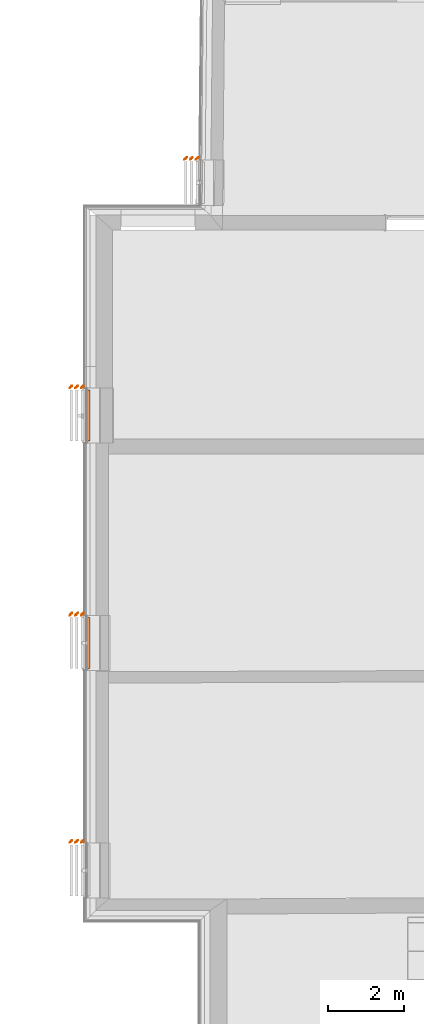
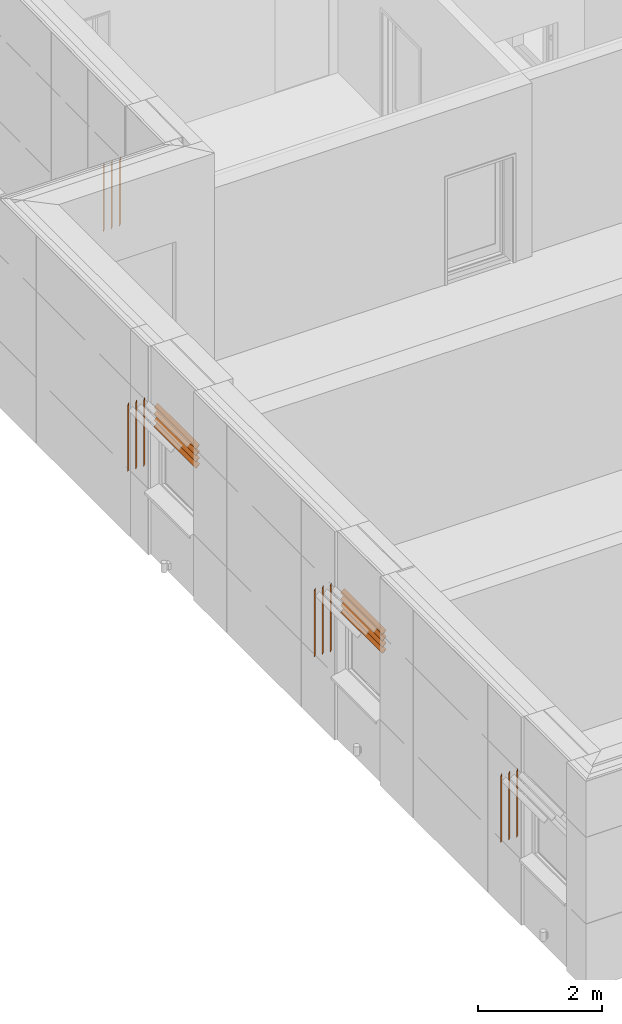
# One storey, part 354 of 418: 6 proxies.
"""IFC2X3 building model written with IfcOpenShell, lengths in millimetres."""

import ifcopenshell
import ifcopenshell.guid

model = None  # the IFC model being written
_history = None  # IfcOwnerHistory: only IFC2X3 demands one
_inside = {}  # id of a spatial element -> (the spatial element, [elements in it])
_under = {}  # id of a project, library or spatial element -> (it, [spatial elements below it])
_declared = {}  # id of a project -> (the project, [libraries it declares])
_typed = {}  # id of a type object -> (the type object, [elements of that type])
_made_of = {}  # id of a material, layer set ... -> (it, [elements and type objects made of it])


def new_model(schema):
    """Start an empty IFC model of exactly this schema.

    Asked for "IFC4X3", IfcOpenShell would pick the latest addendum, in which some entities
    have other attributes; the version numbers below select the first issue.
    IFC2X3 requires an IfcOwnerHistory on every rooted entity: one is made here for all.
    """
    global model, _history
    if schema == "IFC4X3":
        model = ifcopenshell.file(schema_version=(4, 3, 0, 0))
    else:
        model = ifcopenshell.file(schema=schema)
    _inside.clear()
    _under.clear()
    _declared.clear()
    _typed.clear()
    _made_of.clear()
    _history = None
    if model.schema == "IFC2X3":
        org = make("IfcOrganization", Name="unknown")
        user = make(
            "IfcPersonAndOrganization",
            ThePerson=make("IfcPerson", FamilyName="unknown"),
            TheOrganization=org,
        )
        app = make(
            "IfcApplication",
            ApplicationDeveloper=org,
            Version="unknown",
            ApplicationFullName="unknown",
            ApplicationIdentifier="unknown",
        )
        _history = make(
            "IfcOwnerHistory",
            OwningUser=user,
            OwningApplication=app,
            ChangeAction="ADDED",
            CreationDate=0,
        )
    return model


def make(cls, **values):
    """One entity of the class cls with the attributes given. An attribute that is None is left unset."""
    return model.create_entity(
        cls, **{name: value for name, value in values.items() if value is not None}
    )


def entity(cls, *values):
    """Any entity or typed value of the class cls, its attributes in the order of the schema. None: left unset."""
    e = model.create_entity(cls)
    for i, value in enumerate(values):
        if value is not None:
            e[i] = value
    return e


def rooted(cls, **values):
    """An entity with a GlobalId (a new one), such as an element, a storey or a relation."""
    return make(cls, GlobalId=ifcopenshell.guid.new(), OwnerHistory=_history, **values)


def si_unit(unit_type, name, prefix=None):
    """IfcSIUnit, for example si_unit("LENGTHUNIT", "METRE", prefix="MILLI")."""
    return make("IfcSIUnit", UnitType=unit_type, Prefix=prefix, Name=name)


def converted_unit(unit_type, name, factor, base, dimensions=None, offset=None):
    """IfcConversionBasedUnit, such as the inch: factor (a typed value) times the base unit."""
    return make(
        "IfcConversionBasedUnit"
        if offset is None
        else "IfcConversionBasedUnitWithOffset",
        ConversionOffset=offset,
        Dimensions=None
        if dimensions is None
        else entity("IfcDimensionalExponents", *dimensions),
        UnitType=unit_type,
        Name=name,
        ConversionFactor=make(
            "IfcMeasureWithUnit", ValueComponent=factor, UnitComponent=base
        ),
    )


def derived_unit(unit_type, elements):
    """IfcDerivedUnit: a product of units, each with its exponent."""
    return make(
        "IfcDerivedUnit",
        Elements=[
            make("IfcDerivedUnitElement", Unit=unit, Exponent=power)
            for unit, power in elements
        ],
        UnitType=unit_type,
    )


def money_unit(currency):
    """IfcMonetaryUnit."""
    return make("IfcMonetaryUnit", Currency=currency)


def assignment(units):
    """IfcUnitAssignment: the units of a project."""
    return None if units is None else make("IfcUnitAssignment", Units=units)


def point(xyz):
    """IfcCartesianPoint."""
    return None if xyz is None else make("IfcCartesianPoint", Coordinates=xyz)


def direction(xyz):
    """IfcDirection."""
    return None if xyz is None else make("IfcDirection", DirectionRatios=xyz)


def frame(location, z_axis=None, x_axis=None):
    """IfcAxis2Placement3D, a coordinate frame: its origin and axes. An axis left out is left unset."""
    return make(
        "IfcAxis2Placement3D",
        Location=point(location),
        Axis=direction(z_axis),
        RefDirection=direction(x_axis),
    )


def origin_with_axes():
    """The frame at (0, 0, 0) with the z axis (0, 0, 1) and the x axis (1, 0, 0) written out."""
    return frame((0.0, 0.0, 0.0), z_axis=(0.0, 0.0, 1.0), x_axis=(1.0, 0.0, 0.0))


def place(relative_to, where):
    """IfcLocalPlacement: puts the frame where relative to a parent placement (None: the world)."""
    return make(
        "IfcLocalPlacement", PlacementRelTo=relative_to, RelativePlacement=where
    )


def context(
    kind, dimensions, precision=None, world=None, true_north=None, identifier=None
):
    """IfcGeometricRepresentationContext, for example the 3D "Model" context."""
    return make(
        "IfcGeometricRepresentationContext",
        ContextIdentifier=identifier,
        ContextType=kind,
        CoordinateSpaceDimension=dimensions,
        Precision=precision,
        WorldCoordinateSystem=world,
        TrueNorth=true_north,
    )


def subcontext(parent, identifier, kind, view, scale=None):
    """IfcGeometricRepresentationSubContext, for example "Body" below "Model"."""
    return make(
        "IfcGeometricRepresentationSubContext",
        ContextIdentifier=identifier,
        ContextType=kind,
        ParentContext=parent,
        TargetScale=scale,
        TargetView=view,
    )


def project(units=None, contexts=None):
    """IfcProject with its units and contexts."""
    return rooted(
        "IfcProject",
        Name="project",
        RepresentationContexts=contexts,
        UnitsInContext=assignment(units),
    )


def spatial(cls, under=None, at=None, **own):
    """A site, building, storey or space (cls), placed at a placement, below another one or the project."""
    s = rooted(cls, ObjectPlacement=at, **own)
    if under is not None:
        _under.setdefault(under.id(), (under, []))[1].append(s)
    return s


def faces_of(points, faces, orient=None, outer=None):
    """IfcFace entities. A face is a list of loops; a loop is a list of indices into points, from 0.

    orient and outer hold one flag for each loop. By default every Orientation is true, the
    first loop of a face is its IfcFaceOuterBound and the others are IfcFaceBound.
    """
    made = []
    for i, loops in enumerate(faces):
        bounds = []
        for j, loop in enumerate(loops):
            is_outer = j == 0 if outer is None else outer[i][j]
            bounds.append(
                make(
                    "IfcFaceOuterBound" if is_outer else "IfcFaceBound",
                    Bound=make("IfcPolyLoop", Polygon=[points[k] for k in loop]),
                    Orientation=True if orient is None else orient[i][j],
                )
            )
        made.append(make("IfcFace", Bounds=bounds))
    return made


def faceted_brep(points, faces, orient=None, outer=None, voids=None):
    """IfcFacetedBrep: a solid bounded by flat faces; with voids (closed shells), ...WithVoids."""
    shared = [point(p) for p in points]
    hull = make("IfcClosedShell", CfsFaces=faces_of(shared, faces, orient, outer))
    if voids is None:
        return make("IfcFacetedBrep", Outer=hull)
    return make(
        "IfcFacetedBrepWithVoids",
        Outer=hull,
        Voids=[
            make(cls, CfsFaces=faces_of(shared, fs, o, b)) for cls, fs, o, b in voids
        ],
    )


def shape(context_of_items, identifier, shape_type, items):
    """IfcShapeRepresentation: the items that make up one representation, for example the "Body"."""
    return make(
        "IfcShapeRepresentation",
        ContextOfItems=context_of_items,
        RepresentationIdentifier=identifier,
        RepresentationType=shape_type,
        Items=items,
    )


def source(mapping_origin, context_of_items, identifier, shape_type, items):
    """IfcRepresentationMap: a shape defined once, which mapped items show again and again."""
    return make(
        "IfcRepresentationMap",
        MappingOrigin=mapping_origin,
        MappedRepresentation=shape(context_of_items, identifier, shape_type, items),
    )


def transform(
    local_origin,
    x_axis=None,
    y_axis=None,
    z_axis=None,
    scale=None,
    scale2=None,
    scale3=None,
    uniform=True,
):
    """IfcCartesianTransformationOperator3D, or its non-uniform kind. x_axis, y_axis, z_axis: its Axis1, 2, 3."""
    if uniform:
        return make(
            "IfcCartesianTransformationOperator3D",
            Axis1=direction(x_axis),
            Axis2=direction(y_axis),
            LocalOrigin=point(local_origin),
            Scale=scale,
            Axis3=direction(z_axis),
        )
    return make(
        "IfcCartesianTransformationOperator3DnonUniform",
        Axis1=direction(x_axis),
        Axis2=direction(y_axis),
        LocalOrigin=point(local_origin),
        Scale=scale,
        Axis3=direction(z_axis),
        Scale2=scale2,
        Scale3=scale3,
    )


def mapped(mapping_source, mapping_target):
    """IfcMappedItem: shows the shape of a source again, moved by a transform."""
    return make(
        "IfcMappedItem", MappingSource=mapping_source, MappingTarget=mapping_target
    )


def made_of(thing, what):
    """Note that an element or type object is made of a material, layer set ...; save() writes the relation."""
    if what is not None:
        _made_of.setdefault(what.id(), (what, []))[1].append(thing)
    return thing


def type_object(cls, material=None, **own):
    """A type object (cls), such as IfcWallType, which elements share."""
    return made_of(rooted(cls, **own), material)


def element(
    cls,
    number,
    at=None,
    inside=None,
    cuts=None,
    type_object=None,
    material=None,
    context=None,
    identifier="Body",
    shape_type=None,
    held_by="IfcProductDefinitionShape",
    body=None,
    shapes=None,
    **own,
):
    """One element of the class cls, such as IfcWall. Its Tag is "e" and its number.

    at: its placement. inside: the storey or other place that contains it. cuts: it is an
    opening in that element (IfcRelVoidsElement). A single representation is given by context,
    identifier, shape_type and body (its items); several are given by shapes. held_by: the class
    of the entity that holds the representations. save() writes the other relations.
    """
    e = rooted(cls, Tag="e%d" % number, ObjectPlacement=at, **own)
    if body is not None:
        shapes = [shape(context, identifier, shape_type, body)]
    if shapes is not None:
        e.Representation = make(held_by, Representations=shapes)
    if inside is not None:
        _inside.setdefault(inside.id(), (inside, []))[1].append(e)
    if cuts is not None:
        rooted(
            "IfcRelVoidsElement", RelatingBuildingElement=cuts, RelatedOpeningElement=e
        )
    if type_object is not None:
        _typed.setdefault(type_object.id(), (type_object, []))[1].append(e)
    return made_of(e, material)


def aggregate(whole, parts):
    """IfcRelAggregates: a whole, such as a stair, and the parts it consists of."""
    return rooted("IfcRelAggregates", RelatingObject=whole, RelatedObjects=parts)


def save(model, path):
    """Write the relations noted so far, then the file.

    IfcRelAggregates (storeys below a building ...), IfcRelContainedInSpatialStructure (elements
    in a storey), IfcRelDefinesByType, IfcRelAssociatesMaterial and IfcRelDeclares: one each for
    every whole, place, type object, material and project.
    """
    for whole, parts in _under.values():
        aggregate(whole, parts)
    for where, things in _inside.values():
        rooted(
            "IfcRelContainedInSpatialStructure",
            RelatedElements=things,
            RelatingStructure=where,
        )
    for kind, things in _typed.values():
        rooted("IfcRelDefinesByType", RelatedObjects=things, RelatingType=kind)
    for what, things in _made_of.values():
        rooted("IfcRelAssociatesMaterial", RelatedObjects=things, RelatingMaterial=what)
    for by, libraries in _declared.values():
        rooted("IfcRelDeclares", RelatingContext=by, RelatedDefinitions=libraries)
    model.write(path)


model = new_model("IFC2X3")

# Units and contexts
model_context = context("Model", 3, precision=0.01, world=origin_with_axes(), true_north=direction((0.0, 1.0)))
body_context = subcontext(model_context, "Body", "Model", "MODEL_VIEW")
ifc_project = project(units=[si_unit("LENGTHUNIT", "METRE", prefix="MILLI"), si_unit("AREAUNIT", "SQUARE_METRE"), si_unit("VOLUMEUNIT", "CUBIC_METRE"), converted_unit("PLANEANGLEUNIT", "DEGREE", entity("IfcPlaneAngleMeasure", 0.0174532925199), si_unit("PLANEANGLEUNIT", "RADIAN"), dimensions=[0, 0, 0, 0, 0, 0, 0]), si_unit("SOLIDANGLEUNIT", "STERADIAN"), money_unit("EUR"), converted_unit("TIMEUNIT", "Year", entity("IfcTimeMeasure", 31556926.0), si_unit("TIMEUNIT", "SECOND"), dimensions=[0, 0, 1, 0, 0, 0, 0]), si_unit("MASSUNIT", "GRAM", prefix="KILO"), si_unit("THERMODYNAMICTEMPERATUREUNIT", "DEGREE_CELSIUS"), si_unit("LUMINOUSINTENSITYUNIT", "LUMEN"), si_unit("ENERGYUNIT", "JOULE", prefix="MEGA"), derived_unit("THERMALCONDUCTANCEUNIT", [(si_unit("POWERUNIT", "WATT"), 1), (si_unit("LENGTHUNIT", "METRE"), -1), (si_unit("THERMODYNAMICTEMPERATUREUNIT", "KELVIN"), -1)]), derived_unit("SPECIFICHEATCAPACITYUNIT", [(si_unit("ENERGYUNIT", "JOULE"), 1), (si_unit("MASSUNIT", "GRAM", prefix="KILO"), -1), (si_unit("THERMODYNAMICTEMPERATUREUNIT", "KELVIN"), -1)]), derived_unit("MASSDENSITYUNIT", [(si_unit("MASSUNIT", "GRAM", prefix="KILO"), 1), (si_unit("VOLUMEUNIT", "CUBIC_METRE"), -1)])], contexts=[model_context])

# Site, building, storey
site_placement = place(None, origin_with_axes())
site = spatial("IfcSite", under=ifc_project, at=site_placement, Name="Paldiski mnt 245/1, Tallinn, Harjumaa", CompositionType="COMPLEX")
building_placement = place(site_placement, origin_with_axes())
building = spatial("IfcBuilding", under=site, at=building_placement, Name="RKAS Hoone üldnimetus (kasutust iseloomustav) -> IFC Project Manager -> SOLIBRI", CompositionType="ELEMENT")
storey_placement = place(building_placement, origin_with_axes())
storey = spatial("IfcBuildingStorey", under=building, at=storey_placement, Name="Esimene korrus", CompositionType="ELEMENT", Elevation=0.0)

# Proxies
building_element_proxy_type = type_object("IfcBuildingElementProxyType", Name="Solar Shade Straight 17", PredefinedType="NOTDEFINED")
shared_shape_1 = source(origin_with_axes(), body_context, "Body", "Brep", [
    faceted_brep([(-50.0, -24.0727513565, 78.7867965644), (-1399.99991183, -24.0727513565, 78.7867965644), (-1399.99991183, -34.6793530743, 91.7504208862), (-50.0, -34.6793530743, 91.7504208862), (-50.0, -14.6446609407, 64.6446609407), (-1399.99991183, -14.6446609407, 64.6446609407), (-1399.99991183, -28.7867965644, 74.0727513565), (-1399.99991183, -41.7504208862, 84.6793530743), (-1399.99991183, -65.3206469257, 108.249579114), (-1399.99991183, -75.9272486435, 121.213203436), (-1399.99991183, -85.3553390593, 135.355339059), (-1399.99991183, -71.2132034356, 125.927248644), (-1399.99991183, -58.2495791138, 115.320646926), (-50.0, -58.2495791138, 115.320646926), (-50.0, -71.2132034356, 125.927248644), (-50.0, -85.3553390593, 135.355339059), (-50.0, -75.9272486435, 121.213203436), (-50.0, -65.3206469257, 108.249579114), (-50.0, -41.7504208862, 84.6793530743), (-50.0, -28.7867965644, 74.0727513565)], [[[0, 1, 2, 3]], [[4, 5, 1, 0]], [[1, 5, 6, 7, 8, 9, 10, 11, 12, 2]], [[3, 2, 12, 13]], [[0, 3, 13, 14, 15, 16, 17, 18, 19, 4]], [[19, 6, 5, 4]], [[18, 7, 6, 19]], [[17, 8, 7, 18]], [[16, 9, 8, 17]], [[15, 10, 9, 16]], [[14, 11, 10, 15]], [[13, 12, 11, 14]]]),
    faceted_brep([(-50.0, -24.0727513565, 203.786796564), (-1399.99991183, -24.0727513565, 203.786796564), (-1399.99991183, -34.6793530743, 216.750420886), (-50.0, -34.6793530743, 216.750420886), (-50.0, -14.6446609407, 189.644660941), (-1399.99991183, -14.6446609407, 189.644660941), (-1399.99991183, -28.7867965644, 199.072751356), (-1399.99991183, -41.7504208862, 209.679353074), (-1399.99991183, -65.3206469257, 233.249579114), (-1399.99991183, -75.9272486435, 246.213203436), (-1399.99991183, -85.3553390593, 260.355339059), (-1399.99991183, -71.2132034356, 250.927248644), (-1399.99991183, -58.2495791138, 240.320646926), (-50.0, -58.2495791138, 240.320646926), (-50.0, -71.2132034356, 250.927248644), (-50.0, -85.3553390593, 260.355339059), (-50.0, -75.9272486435, 246.213203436), (-50.0, -65.3206469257, 233.249579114), (-50.0, -41.7504208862, 209.679353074), (-50.0, -28.7867965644, 199.072751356)], [[[0, 1, 2, 3]], [[4, 5, 1, 0]], [[1, 5, 6, 7, 8, 9, 10, 11, 12, 2]], [[3, 2, 12, 13]], [[0, 3, 13, 14, 15, 16, 17, 18, 19, 4]], [[19, 6, 5, 4]], [[18, 7, 6, 19]], [[17, 8, 7, 18]], [[16, 9, 8, 17]], [[15, 10, 9, 16]], [[14, 11, 10, 15]], [[13, 12, 11, 14]]]),
    faceted_brep([(-50.0, -24.0727513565, 328.786796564), (-1399.99991183, -24.0727513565, 328.786796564), (-1399.99991183, -34.6793530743, 341.750420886), (-50.0, -34.6793530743, 341.750420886), (-50.0, -14.6446609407, 314.644660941), (-1399.99991183, -14.6446609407, 314.644660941), (-1399.99991183, -28.7867965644, 324.072751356), (-1399.99991183, -41.7504208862, 334.679353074), (-1399.99991183, -65.3206469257, 358.249579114), (-1399.99991183, -75.9272486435, 371.213203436), (-1399.99991183, -85.3553390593, 385.355339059), (-1399.99991183, -71.2132034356, 375.927248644), (-1399.99991183, -58.2495791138, 365.320646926), (-50.0, -58.2495791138, 365.320646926), (-50.0, -71.2132034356, 375.927248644), (-50.0, -85.3553390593, 385.355339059), (-50.0, -75.9272486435, 371.213203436), (-50.0, -65.3206469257, 358.249579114), (-50.0, -41.7504208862, 334.679353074), (-50.0, -28.7867965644, 324.072751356)], [[[0, 1, 2, 3]], [[4, 5, 1, 0]], [[1, 5, 6, 7, 8, 9, 10, 11, 12, 2]], [[3, 2, 12, 13]], [[0, 3, 13, 14, 15, 16, 17, 18, 19, 4]], [[19, 6, 5, 4]], [[18, 7, 6, 19]], [[17, 8, 7, 18]], [[16, 9, 8, 17]], [[15, 10, 9, 16]], [[14, 11, 10, 15]], [[13, 12, 11, 14]]]),
    faceted_brep([(-50.0, -24.0727513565, 453.786796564), (-1399.99991183, -24.0727513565, 453.786796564), (-1399.99991183, -34.6793530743, 466.750420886), (-50.0, -34.6793530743, 466.750420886), (-50.0, -14.6446609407, 439.644660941), (-1399.99991183, -14.6446609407, 439.644660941), (-1399.99991183, -28.7867965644, 449.072751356), (-1399.99991183, -41.7504208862, 459.679353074), (-1399.99991183, -65.3206469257, 483.249579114), (-1399.99991183, -75.9272486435, 496.213203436), (-1399.99991183, -85.3553390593, 510.355339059), (-1399.99991183, -71.2132034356, 500.927248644), (-1399.99991183, -58.2495791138, 490.320646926), (-50.0, -58.2495791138, 490.320646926), (-50.0, -71.2132034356, 500.927248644), (-50.0, -85.3553390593, 510.355339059), (-50.0, -75.9272486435, 496.213203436), (-50.0, -65.3206469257, 483.249579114), (-50.0, -41.7504208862, 459.679353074), (-50.0, -28.7867965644, 449.072751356)], [[[0, 1, 2, 3]], [[4, 5, 1, 0]], [[1, 5, 6, 7, 8, 9, 10, 11, 12, 2]], [[3, 2, 12, 13]], [[0, 3, 13, 14, 15, 16, 17, 18, 19, 4]], [[19, 6, 5, 4]], [[18, 7, 6, 19]], [[17, 8, 7, 18]], [[16, 9, 8, 17]], [[15, 10, 9, 16]], [[14, 11, 10, 15]], [[13, 12, 11, 14]]]),
])
for number, where, z_axis, x_axis in (
    (1, (-62965.000034, 25579.3309755, 2454.64464055), (0.0, 0.0, 1.0), (0.0, 1.0, 0.0)),
    (2, (-62965.000034, 19579.8286323, 2454.64464055), (0.0, 0.0, 1.0), (0.0, 1.0, 0.0)),
):
    element("IfcBuildingElementProxy", number, at=place(storey_placement, frame(where, z_axis=z_axis, x_axis=x_axis)), inside=storey, type_object=building_element_proxy_type, Name="Päikesezalusii", context=body_context, shape_type="MappedRepresentation", body=[
        mapped(shared_shape_1, transform((0.0, 0.0, 0.0))),
    ])
shared_shape_2 = source(origin_with_axes(), body_context, "Body", "Brep", [
    faceted_brep([(-74.0727513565, -28.7867965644, 25.0), (-74.0727513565, -28.7867965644, 1325.0), (-84.6793530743, -41.7504208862, 1325.0), (-84.6793530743, -41.7504208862, 25.0), (-64.6446609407, -14.6446609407, 25.0), (-64.6446609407, -14.6446609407, 1325.0), (-78.7867965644, -24.0727513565, 1325.0), (-91.7504208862, -34.6793530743, 1325.0), (-115.320646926, -58.2495791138, 1325.0), (-125.927248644, -71.2132034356, 1325.0), (-135.355339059, -85.3553390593, 1325.0), (-121.213203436, -75.9272486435, 1325.0), (-108.249579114, -65.3206469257, 1325.0), (-108.249579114, -65.3206469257, 25.0), (-121.213203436, -75.9272486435, 25.0), (-135.355339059, -85.3553390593, 25.0), (-125.927248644, -71.2132034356, 25.0), (-115.320646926, -58.2495791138, 25.0), (-91.7504208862, -34.6793530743, 25.0), (-78.7867965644, -24.0727513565, 25.0)], [[[0, 1, 2, 3]], [[4, 5, 1, 0]], [[1, 5, 6, 7, 8, 9, 10, 11, 12, 2]], [[3, 2, 12, 13]], [[0, 3, 13, 14, 15, 16, 17, 18, 19, 4]], [[19, 6, 5, 4]], [[18, 7, 6, 19]], [[17, 8, 7, 18]], [[16, 9, 8, 17]], [[15, 10, 9, 16]], [[14, 11, 10, 15]], [[13, 12, 11, 14]]]),
    faceted_brep([(-224.072751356, -28.7867965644, 25.0), (-224.072751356, -28.7867965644, 1325.0), (-234.679353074, -41.7504208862, 1325.0), (-234.679353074, -41.7504208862, 25.0), (-214.644660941, -14.6446609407, 25.0), (-214.644660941, -14.6446609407, 1325.0), (-228.786796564, -24.0727513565, 1325.0), (-241.750420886, -34.6793530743, 1325.0), (-265.320646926, -58.2495791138, 1325.0), (-275.927248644, -71.2132034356, 1325.0), (-285.355339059, -85.3553390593, 1325.0), (-271.213203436, -75.9272486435, 1325.0), (-258.249579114, -65.3206469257, 1325.0), (-258.249579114, -65.3206469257, 25.0), (-271.213203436, -75.9272486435, 25.0), (-285.355339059, -85.3553390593, 25.0), (-275.927248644, -71.2132034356, 25.0), (-265.320646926, -58.2495791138, 25.0), (-241.750420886, -34.6793530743, 25.0), (-228.786796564, -24.0727513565, 25.0)], [[[0, 1, 2, 3]], [[4, 5, 1, 0]], [[1, 5, 6, 7, 8, 9, 10, 11, 12, 2]], [[3, 2, 12, 13]], [[0, 3, 13, 14, 15, 16, 17, 18, 19, 4]], [[19, 6, 5, 4]], [[18, 7, 6, 19]], [[17, 8, 7, 18]], [[16, 9, 8, 17]], [[15, 10, 9, 16]], [[14, 11, 10, 15]], [[13, 12, 11, 14]]]),
    faceted_brep([(-374.072751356, -28.7867965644, 25.0), (-374.072751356, -28.7867965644, 1325.0), (-384.679353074, -41.7504208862, 1325.0), (-384.679353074, -41.7504208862, 25.0), (-364.644660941, -14.6446609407, 25.0), (-364.644660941, -14.6446609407, 1325.0), (-378.786796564, -24.0727513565, 1325.0), (-391.750420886, -34.6793530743, 1325.0), (-415.320646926, -58.2495791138, 1325.0), (-425.927248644, -71.2132034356, 1325.0), (-435.355339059, -85.3553390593, 1325.0), (-421.213203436, -75.9272486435, 1325.0), (-408.249579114, -65.3206469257, 1325.0), (-408.249579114, -65.3206469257, 25.0), (-421.213203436, -75.9272486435, 25.0), (-435.355339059, -85.3553390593, 25.0), (-425.927248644, -71.2132034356, 25.0), (-415.320646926, -58.2495791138, 25.0), (-391.750420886, -34.6793530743, 25.0), (-378.786796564, -24.0727513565, 25.0)], [[[0, 1, 2, 3]], [[4, 5, 1, 0]], [[1, 5, 6, 7, 8, 9, 10, 11, 12, 2]], [[3, 2, 12, 13]], [[0, 3, 13, 14, 15, 16, 17, 18, 19, 4]], [[19, 6, 5, 4]], [[18, 7, 6, 19]], [[17, 8, 7, 18]], [[16, 9, 8, 17]], [[15, 10, 9, 16]], [[14, 11, 10, 15]], [[13, 12, 11, 14]]]),
])
for number, where, z_axis, x_axis in (
    (3, (-62980.0000092, 25664.6864027, 1742.7817435), (0.0, 0.0, 1.0), (1.0, 0.0, 0.0)),
    (4, (-59953.4736407, 31691.3608492, 1735.71067569), (0.0, 0.0, 1.0), (1.0, 0.0, 0.0)),
    (5, (-62980.0000092, 19665.1841394, 1735.71067812), (0.0, 0.0, 1.0), (1.0, 0.0, 0.0)),
    (6, (-62980.0000092, 13665.1840634, 1735.71067569), (0.0, 0.0, 1.0), (1.0, 0.0, 0.0)),
):
    element("IfcBuildingElementProxy", number, at=place(storey_placement, frame(where, z_axis=z_axis, x_axis=x_axis)), inside=storey, type_object=building_element_proxy_type, Name="Päikesezalusii", context=body_context, shape_type="MappedRepresentation", body=[
        mapped(shared_shape_2, transform((0.0, 0.0, 0.0))),
    ])

save(model, "model.ifc")
